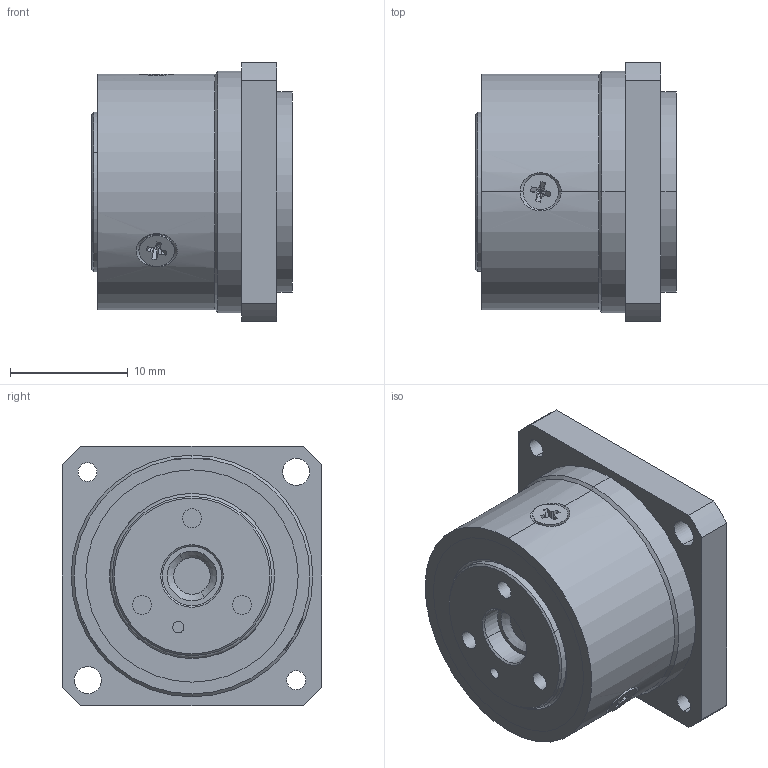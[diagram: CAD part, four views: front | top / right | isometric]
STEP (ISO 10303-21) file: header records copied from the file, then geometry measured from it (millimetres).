
FILE_DESCRIPTION (( 'STEP AP214' ), '1' );
FILE_NAME ('CSF-05-xxx-2XH-F.STEP', '2022-04-27T10:48:22', ( 'PC' ), ( 'Microsoft' ), 'SwSTEP 2.0', 'SolidWorks 2016', '' );
FILE_SCHEMA (( 'AUTOMOTIVE_DESIGN' ));
Length unit declared in the file: millimetre
Products named in the file (11): CSF-05-交叉轴承外圈; CSF-05-交叉轴承内圈; CSF-05-2XH-01_蕼偞; CSF-05-xxx-2XH-F; 十字槽沉头螺钉 M1.6×3_預設; CSF-05-2XH-CC疏楷汜ん_蕼偞; 13.08x9.8x2.08柔性轴承_預設; CSF-05-2XH-CC芧謫_蕼偞; CSF-05-2XH-03_蕼偞; CSF-05蝠脫粣創_蕼偞; 外径14x0.8  O型圈_預設
Assembly tree (12 placements, depth 3):
  CSF-05-xxx-2XH-F
    CSF-05-2XH-01_蕼偞
    CSF-05蝠脫粣創_蕼偞
      CSF-05-交叉轴承内圈
      CSF-05-交叉轴承外圈
      外径14x0.8  O型圈_預設
    CSF-05-2XH-03_蕼偞
    CSF-05-2XH-CC疏楷汜ん_蕼偞
      CSF-05-2XH-CC芧謫_蕼偞
      13.08x9.8x2.08柔性轴承_預設
    十字槽沉头螺钉 M1.6×3_預設  x3
Bounding box: 17 x 22 x 22 mm (x, y, z)
Volume: 4237.6 mm3; surface area: 6341.2 mm2
Topology: 10 solids, 10 shells, 344 faces, 734 edges, 425 vertices
Faces by surface type: plane 146, cylinder 118, cone 56, torus 16, bspline 8
Entity records: 8064 total; most frequent: CARTESIAN_POINT 1724, DIRECTION 1284, ORIENTED_EDGE 1092, EDGE_CURVE 546, AXIS2_PLACEMENT_3D 517, VERTEX_POINT 327, EDGE_LOOP 297, CIRCLE 256
